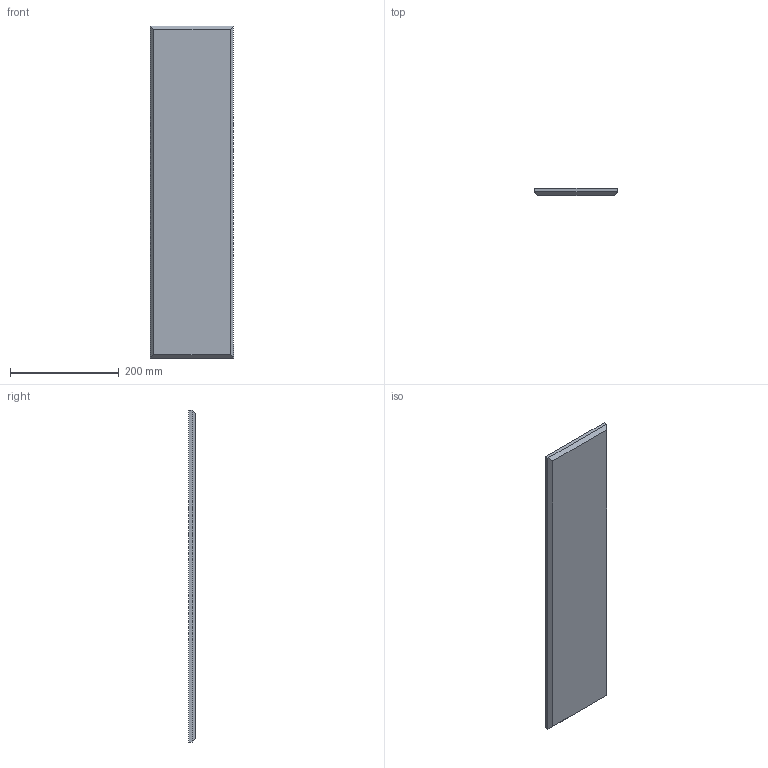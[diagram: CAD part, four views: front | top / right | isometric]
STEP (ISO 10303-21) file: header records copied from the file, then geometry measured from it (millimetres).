
FILE_DESCRIPTION(/* description */ (''),/* implementation_level */ '2;1');
FILE_NAME(/* name */ 'PET PLANQ_Beveled_6x24',/* time_stamp */ '2024-10-31T13:55:33-05:00',/* author */ (''),/* organization */ (''),/* preprocessor_version */ 'ST-DEVELOPER v19.2',/* originating_system */ 'Rhino 8.4',/* authorisation */ '');
FILE_SCHEMA (('CONFIG_CONTROL_DESIGN'));
Length unit declared in the file: inch
Products named in the file (1): Document
Bounding box: 152.4 x 12.7 x 609.6 mm (x, y, z)
Volume: 1149484.3 mm3; surface area: 199425.2 mm2
Topology: 1 solids, 1 shells, 10 faces, 20 edges, 12 vertices
Faces by surface type: plane 10
Entity records: 310 total; most frequent: CARTESIAN_POINT 64, ORIENTED_EDGE 40, EDGE_CURVE 20, B_SPLINE_CURVE_WITH_KNOTS 20, DIRECTION 14, VERTEX_POINT 12, AXIS2_PLACEMENT_3D 12, ADVANCED_FACE 10
